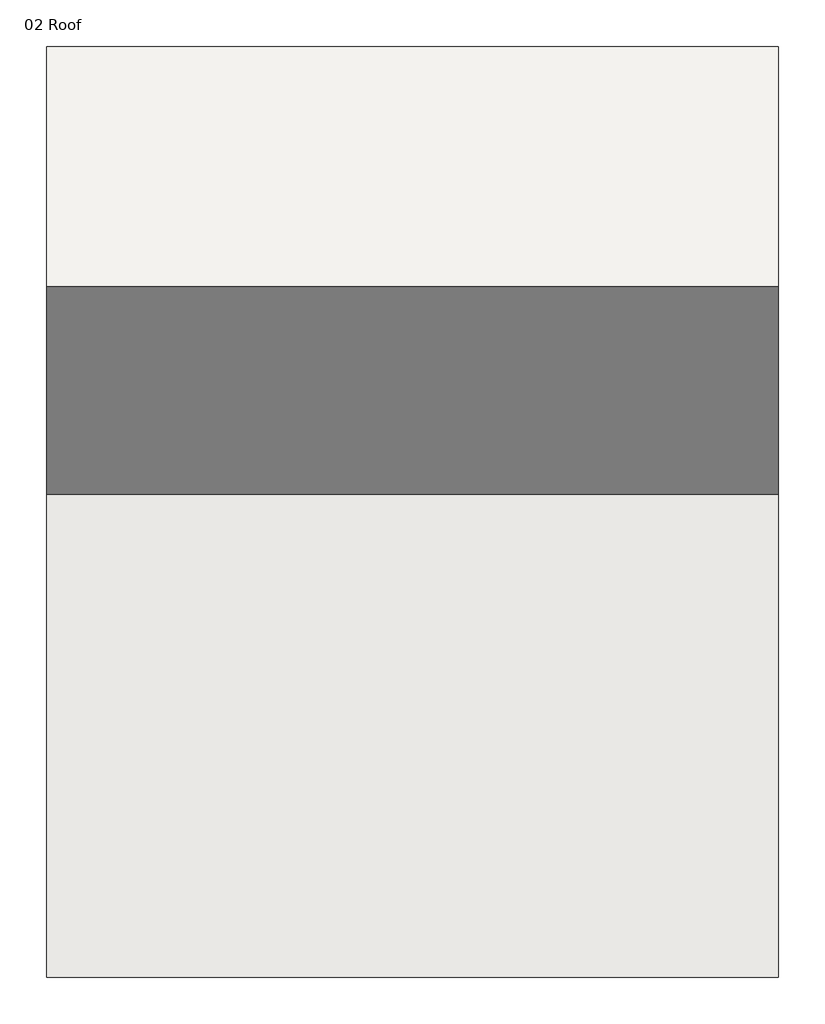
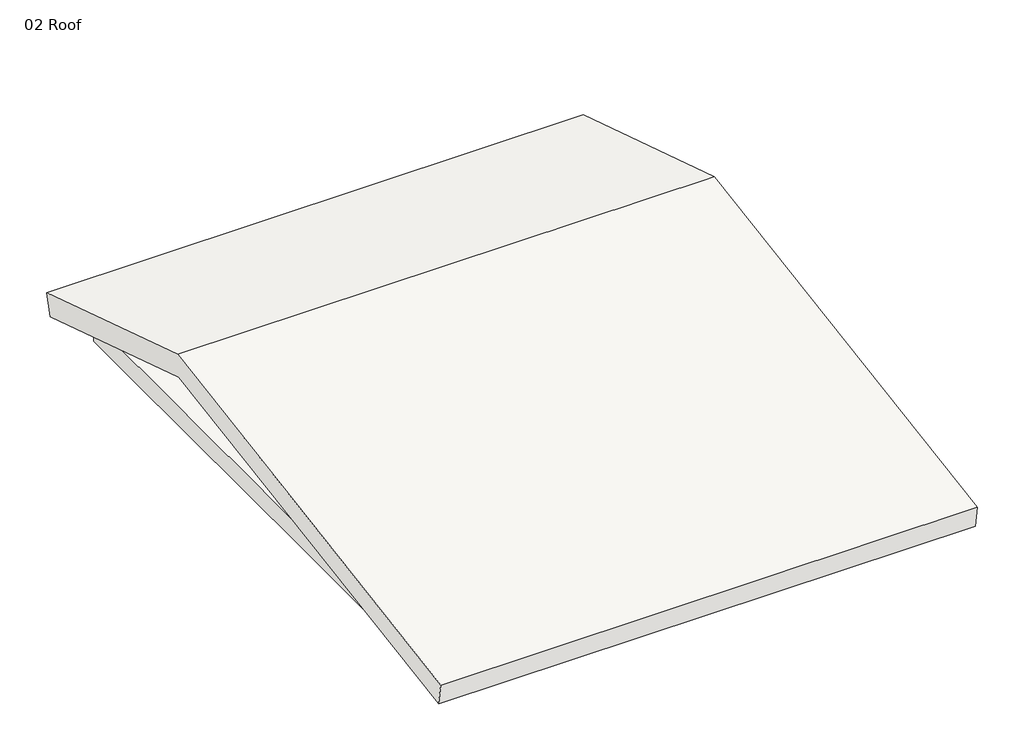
# One storey: 1 roof, 1 slab.
"""IFC4 building model written with IfcOpenShell, lengths in millimetres."""

from ifc_helpers import new_model, si_unit, frame, origin, place, context, project, spatial, polyline, outline, extrude, faceted_brep, element, save

model = new_model("IFC4")

# Units and contexts
model_context = context("Model", 3, world=origin())
ifc_project = project(units=[si_unit("LENGTHUNIT", "METRE", prefix="MILLI")], contexts=[model_context])

# Site, building, storey
site = spatial("IfcSite", under=ifc_project)
building = spatial("IfcBuilding", under=site)
storey = spatial("IfcBuildingStorey", under=building, Name="02 Roof", Elevation=7000.0)

# Roof
placement = place(None, origin())
element("IfcRoof", 1, ObjectType="Warm Roof - Timber", at=placement, inside=storey, context=model_context, shape_type="SweptSolid", body=[
    extrude(outline(polyline([(-3512.7101648, 7342.3302983), (3363.2258588, 8446.4952072), (6787.2898352, 7354.764664), (6684.6143805, 7032.7371015), (3337.2898352, 8100.0), (-3459.1193727, 7008.6058206), (-3512.7101648, 7342.3302983)])), frame((-8772.5407999, 0.0, 0.0), z_axis=(1.0, 0.0, 0.0), x_axis=(0.0, 1.0, 0.0)), (0.0, 0.0, 1.0), 8100.0),
])

# Slab
element("IfcSlab", 2, ObjectType="Generic 300mm", at=placement, inside=storey, context=model_context, shape_type="Brep", body=[
    faceted_brep([(-8322.5407999, 6337.2898352, 6700.0), (-8122.5407999, 6337.2898352, 6700.0), (-6447.5407999, 6337.2898352, 6700.0), (-2997.5407999, 6337.2898352, 6700.0), (-1322.5407999, 6337.2898352, 6700.0), (-1122.5407999, 6337.2898352, 6700.0), (-1122.5407999, 5937.2898352, 6700.0), (-1122.5407999, 3337.2898352, 6700.0), (-1122.5407999, 2937.2898352, 6700.0), (-1122.5407999, 337.2898352, 6700.0), (-1122.5407999, -12.7101648, 6700.0), (-1122.5407999, -62.7101648, 6700.0), (-1122.5407999, -2849.7101648, 6700.0), (-1122.5407999, -3062.7101648, 6700.0), (-5882.5407999, -3062.7101648, 6700.0), (-8122.5407999, -3062.7101648, 6700.0), (-8322.5407999, -3062.7101648, 6700.0), (-8322.5407999, -2662.7101648, 6700.0), (-8322.5407999, -62.7101648, 6700.0), (-8322.5407999, 337.2898352, 6700.0), (-8322.5407999, 2937.2898352, 6700.0), (-8322.5407999, 3337.2898352, 6700.0), (-8322.5407999, 5937.2898352, 6700.0), (-8322.5407999, 6337.2898352, 7000.0), (-8322.5407999, -3062.7101648, 7000.0), (-5882.5407999, -3062.7101648, 7000.0), (-1122.5407999, -3062.7101648, 7000.0), (-1122.5407999, -2849.7101648, 7000.0), (-1122.5407999, -12.7101648, 7000.0), (-1122.5407999, 6337.2898352, 7000.0), (-2997.5407999, 6337.2898352, 7000.0), (-6447.5407999, 6337.2898352, 7000.0)], [[[0, 1, 2, 3, 4, 5, 6, 7, 8, 9, 10, 11, 12, 13, 14, 15, 16, 17, 18, 19, 20, 21, 22]], [[23, 24, 25, 26, 27, 28, 29, 30, 31]], [[5, 4, 3, 2, 1, 0, 23, 31, 30, 29]], [[13, 12, 11, 10, 9, 8, 7, 6, 5, 29, 28, 27, 26]], [[16, 15, 14, 13, 26, 25, 24]], [[0, 22, 21, 20, 19, 18, 17, 16, 24, 23]]]),
])

save(model, "model.ifc")
